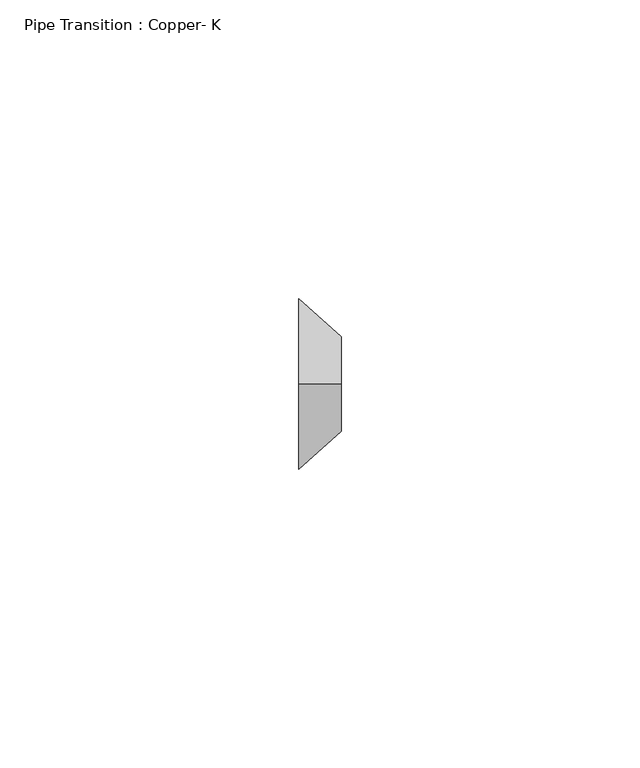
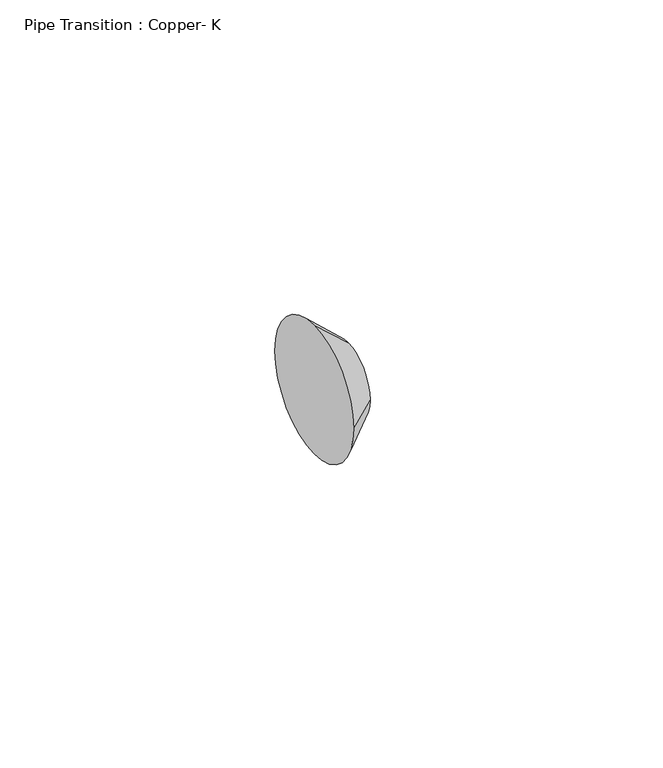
"""IFC4 building model written with IfcOpenShell, lengths in millimetres: pipe fitting geometry, Pipe Transition : Copper- K."""

from ifc_helpers import new_model, si_unit, frame, origin, place, context, project, spatial, polyline, circle_curve, source, transform, mapped, element, save
from ifc_brep_helpers import plane_surface, revolved_surface, advanced_brep


def pipe_transition_copper_k_b559b4f3(model_context):
    return source(origin(), model_context, "Body", "AdvancedBrep", [
        advanced_brep(
        [(7.14375, 0.0, 7.9375), (7.14375, -7.9375, 0.0), (7.14375, 0.0, -7.9375), (7.14375, 7.9375, 0.0), (0.0, 0.0, 14.2875), (0.0, 14.2875, 0.0), (0.0, 0.0, -14.2875), (0.0, -14.2875, 0.0)],
        [
            (0, 1, circle_curve(frame((7.14375, 0.0, 0.0), z_axis=(1.0, 0.0, 0.0), x_axis=(0.0, -1.0, 0.0)), 7.9375)),
            (1, 2, circle_curve(frame((7.14375, 0.0, 0.0), z_axis=(1.0, 0.0, 0.0), x_axis=(0.0, 0.0, -1.0)), 7.9375)),
            (2, 3, circle_curve(frame((7.14375, 0.0, 0.0), z_axis=(1.0, 0.0, 0.0), x_axis=(0.0, 1.0, 0.0)), 7.9375)),
            (3, 0, circle_curve(frame((7.14375, 0.0, 0.0), z_axis=(1.0, 0.0, 0.0), x_axis=(0.0, 0.0, 1.0)), 7.9375)),
            (4, 5, circle_curve(frame((0.0, 0.0, 0.0), z_axis=(-1.0, 0.0, 0.0), x_axis=(0.0, 0.0, 1.0)), 14.2875)),
            (5, 6, circle_curve(frame((0.0, 0.0, 0.0), z_axis=(-1.0, 0.0, 0.0), x_axis=(0.0, 1.0, 0.0)), 14.2875)),
            (6, 7, circle_curve(frame((0.0, 0.0, 0.0), z_axis=(-1.0, 0.0, 0.0), x_axis=(0.0, 0.0, -1.0)), 14.2875)),
            (7, 4, circle_curve(frame((0.0, 0.0, 0.0), z_axis=(-1.0, 0.0, 0.0), x_axis=(0.0, -1.0, 0.0)), 14.2875)),
            (4, 0),
            (3, 5),
            (2, 6),
            (1, 7),
        ],
        [
            plane_surface(frame((7.14375, 0.0, 0.0), z_axis=(1.0, 0.0, 0.0), x_axis=(0.0, 1.0, 0.0))),
            plane_surface(frame((0.0, 0.0, 0.0), z_axis=(-1.0, 0.0, 0.0), x_axis=(0.0, 1.0, 0.0))),
            revolved_surface(polyline([(7.143750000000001, 0.0, 7.9375), (0.0, 0.0, 14.2875)]), (16.0734375, 0.0, 0.0), (-1.0, 0.0, 0.0)),
            revolved_surface(polyline([(7.143750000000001, 7.9375, 0.0), (0.0, 14.2875, 0.0)]), (16.0734375, 0.0, 0.0), (-1.0, 0.0, 0.0)),
            revolved_surface(polyline([(7.143750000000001, 0.0, -7.9375), (0.0, 0.0, -14.2875)]), (16.0734375, 0.0, 0.0), (-1.0, 0.0, 0.0)),
            revolved_surface(polyline([(7.143750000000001, -7.9375, 0.0), (0.0, -14.2875, 0.0)]), (16.0734375, 0.0, 0.0), (-1.0, 0.0, 0.0)),
        ],
        [
            (0, [[1, 2, 3, 4]]),
            (1, [[5, 6, 7, 8]]),
            (2, [[9, -4, 10, -5]]),
            (3, [[-10, -3, 11, -6]]),
            (4, [[-11, -2, 12, -7]]),
            (5, [[-12, -1, -9, -8]]),
        ],
    ),
        advanced_brep(
        [(7.14375, 0.0, 7.9375), (7.14375, -7.9375, 0.0), (7.14375, 0.0, -7.9375), (7.14375, 7.9375, 0.0), (0.0, 0.0, 14.2875), (0.0, 14.2875, 0.0), (0.0, 0.0, -14.2875), (0.0, -14.2875, 0.0)],
        [
            (0, 1, circle_curve(frame((7.14375, 0.0, 0.0), z_axis=(1.0, 0.0, 0.0), x_axis=(0.0, -1.0, 0.0)), 7.9375)),
            (1, 2, circle_curve(frame((7.14375, 0.0, 0.0), z_axis=(1.0, 0.0, -1.828334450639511e-12), x_axis=(-1.828358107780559e-12, 0.0, -1.0)), 7.9375)),
            (2, 3, circle_curve(frame((7.14375, 0.0, 0.0), z_axis=(1.0, 0.0, -1.1269465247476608e-12), x_axis=(0.0, 1.0, 0.0)), 7.9375)),
            (3, 0, circle_curve(frame((7.14375, 0.0, 0.0), z_axis=(1.0, 0.0, -1.1743160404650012e-12), x_axis=(1.174286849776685e-12, 0.0, 1.0)), 7.9375)),
            (4, 5, circle_curve(frame((0.0, 0.0, 0.0), z_axis=(-1.0, 0.0, 1.1743160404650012e-12), x_axis=(1.174286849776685e-12, 0.0, 1.0)), 14.2875)),
            (5, 6, circle_curve(frame((0.0, 0.0, 0.0), z_axis=(-1.0, 0.0, 1.1269465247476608e-12), x_axis=(0.0, 1.0, 0.0)), 14.2875)),
            (6, 7, circle_curve(frame((0.0, 0.0, 0.0), z_axis=(-1.0, 0.0, 1.828334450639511e-12), x_axis=(-1.828358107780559e-12, 0.0, -1.0)), 14.2875)),
            (7, 4, circle_curve(frame((0.0, 0.0, 0.0), z_axis=(-1.0, 0.0, 0.0), x_axis=(0.0, -1.0, 0.0)), 14.2875)),
            (4, 0),
            (3, 5),
            (2, 6),
            (1, 7),
        ],
        [
            plane_surface(frame((7.14375, 0.0, 0.0), z_axis=(1.0, 0.0, 0.0), x_axis=(0.0, 1.0, 0.0))),
            plane_surface(frame((0.0, 0.0, 0.0), z_axis=(-1.0, 0.0, 0.0), x_axis=(0.0, 1.0, 0.0))),
            revolved_surface(polyline([(7.143750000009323, 0.0, 7.937499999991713), (0.0, 0.0, 14.2875)]), (16.0734375, 0.0, 0.0), (-1.0, 0.0, 1.1743160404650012e-12)),
            revolved_surface(polyline([(7.143750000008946, 7.937499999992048, 0.0), (0.0, 14.2875, 0.0)]), (16.0734375, 0.0, 0.0), (-1.0, 0.0, 1.1269465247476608e-12)),
            revolved_surface(polyline([(7.143750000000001, 0.0, -7.9375), (-2.6123103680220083e-11, 0.0, -14.287500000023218)]), (16.0734375, 0.0, 0.0), (-1.0, 0.0, 1.828334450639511e-12)),
            revolved_surface(polyline([(7.143750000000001, -7.9375, 0.0), (0.0, -14.2875, 0.0)]), (16.0734375, 0.0, 0.0), (-1.0, 0.0, 0.0)),
        ],
        [
            (0, [[1, 2, 3, 4]]),
            (1, [[5, 6, 7, 8]]),
            (2, [[9, -4, 10, -5]]),
            (3, [[-10, -3, 11, -6]]),
            (4, [[-11, -2, 12, -7]]),
            (5, [[-12, -1, -9, -8]]),
        ],
    ),
    ])


if __name__ == "__main__":
    model = new_model("IFC4")
    model_context = context("Model", 3, world=origin())
    ifc_project = project(units=[si_unit("LENGTHUNIT", "METRE", prefix="MILLI")], contexts=[model_context])
    site = spatial("IfcSite", under=ifc_project)
    building = spatial("IfcBuilding", under=site)
    placement = place(None, origin())
    pipe_transition_copper_k_shape = pipe_transition_copper_k_b559b4f3(model_context)
    element("IfcPipeFitting", 1, ObjectType="Pipe Transition : Copper- K", at=placement, inside=building, context=model_context, shape_type="MappedRepresentation", body=[
        mapped(pipe_transition_copper_k_shape, transform((0.0, 0.0, 0.0), x_axis=(1.0, 0.0, 0.0), y_axis=(0.0, 1.0, 0.0), z_axis=(0.0, 0.0, 1.0))),
    ])
    save(model, "model.ifc")
